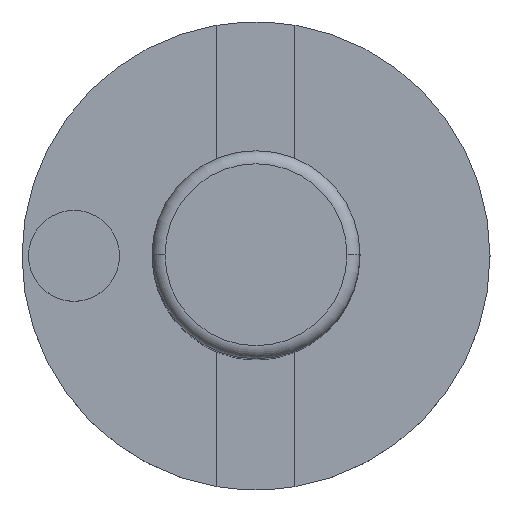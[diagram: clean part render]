
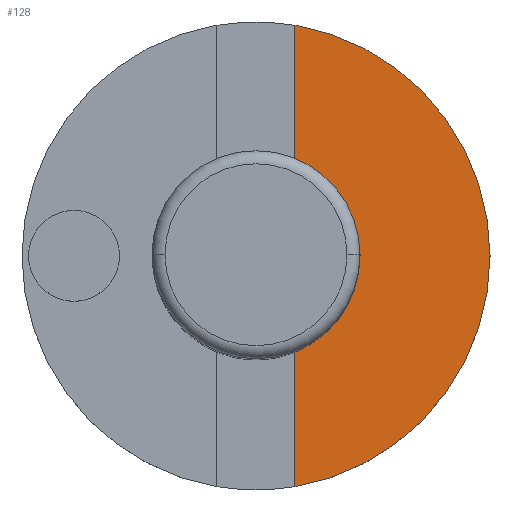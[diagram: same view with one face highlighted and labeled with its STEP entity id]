
A CAD part, top view. The second image highlights one B-rep face of the part: STEP entity #128.
In plain terms, the highlighted planar face has unit normal (0, 0, 1).
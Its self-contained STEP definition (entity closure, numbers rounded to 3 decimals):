
#108=PLANE('',#663);
#128=ADVANCED_FACE('',(#180),#108,.T.);
#180=FACE_OUTER_BOUND('',#214,.T.);
#214=EDGE_LOOP('',(#321,#322,#323,#324,#325,#326));
#255=CIRCLE('',#655,4.);
#257=CIRCLE('',#658,4.);
#259=CIRCLE('',#661,9.);
#260=CIRCLE('',#662,9.);
#321=ORIENTED_EDGE('',*,*,#503,.T.);
#322=ORIENTED_EDGE('',*,*,#511,.F.);
#323=ORIENTED_EDGE('',*,*,#512,.F.);
#324=ORIENTED_EDGE('',*,*,#513,.F.);
#325=ORIENTED_EDGE('',*,*,#514,.F.);
#326=ORIENTED_EDGE('',*,*,#508,.T.);
#453=VERTEX_POINT('',#942);
#454=VERTEX_POINT('',#944);
#457=VERTEX_POINT('',#953);
#459=VERTEX_POINT('',#959);
#460=VERTEX_POINT('',#961);
#461=VERTEX_POINT('',#963);
#503=EDGE_CURVE('',#454,#453,#255,.T.);
#508=EDGE_CURVE('',#457,#454,#257,.T.);
#511=EDGE_CURVE('',#459,#453,#575,.T.);
#512=EDGE_CURVE('',#460,#459,#259,.T.);
#513=EDGE_CURVE('',#461,#460,#260,.T.);
#514=EDGE_CURVE('',#457,#461,#576,.T.);
#575=LINE('',#958,#611);
#576=LINE('',#964,#612);
#611=VECTOR('',#770,1.);
#612=VECTOR('',#775,1.);
#655=AXIS2_PLACEMENT_3D('',#943,#754,#755);
#658=AXIS2_PLACEMENT_3D('',#952,#763,#764);
#661=AXIS2_PLACEMENT_3D('',#960,#771,#772);
#662=AXIS2_PLACEMENT_3D('',#962,#773,#774);
#663=AXIS2_PLACEMENT_3D('',#965,#776,#777);
#754=DIRECTION('',(0.,0.,-1.));
#755=DIRECTION('',(0.,1.,0.));
#763=DIRECTION('',(0.,0.,-1.));
#764=DIRECTION('',(0.,-1.,0.));
#770=DIRECTION('',(0.,1.,0.));
#771=DIRECTION('',(0.,0.,-1.));
#772=DIRECTION('',(0.,1.,0.));
#773=DIRECTION('',(0.,0.,-1.));
#774=DIRECTION('',(0.,-1.,0.));
#775=DIRECTION('',(0.,1.,0.));
#776=DIRECTION('',(0.,0.,1.));
#777=DIRECTION('',(-1.,0.,0.));
#942=CARTESIAN_POINT('',(1.5,-3.708,3.));
#943=CARTESIAN_POINT('',(0.,0.,3.));
#944=CARTESIAN_POINT('',(4.,0.,3.));
#952=CARTESIAN_POINT('',(0.,0.,3.));
#953=CARTESIAN_POINT('',(1.5,3.708,3.));
#958=CARTESIAN_POINT('',(1.5,9.03,3.));
#959=CARTESIAN_POINT('',(1.5,-8.874,3.));
#960=CARTESIAN_POINT('',(0.,0.,3.));
#961=CARTESIAN_POINT('',(9.,0.,3.));
#962=CARTESIAN_POINT('',(0.,0.,3.));
#963=CARTESIAN_POINT('',(1.5,8.874,3.));
#964=CARTESIAN_POINT('',(1.5,9.03,3.));
#965=CARTESIAN_POINT('',(0.,0.,3.));
